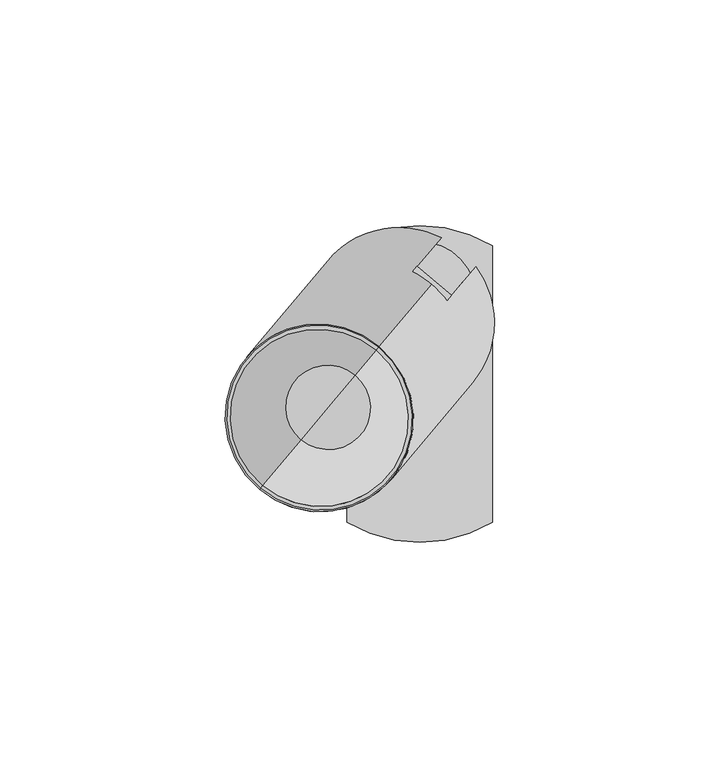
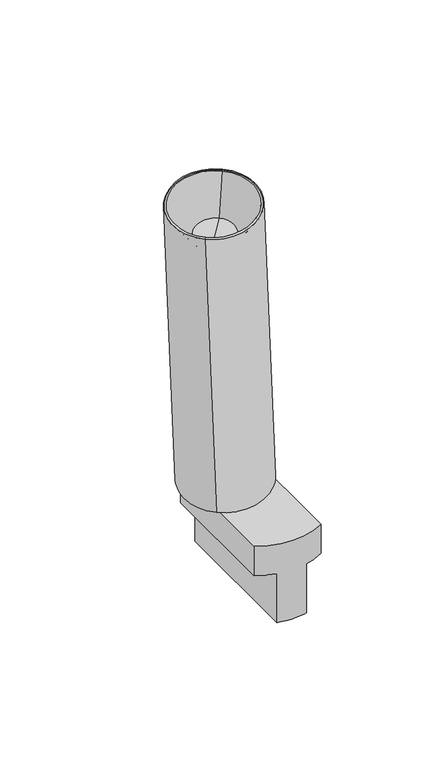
"""IFC4 building model written with IfcOpenShell, lengths in millimetres: light fixture geometry, PIPES T XS : 490lm 7,8W 930 38°."""

from ifc_helpers import new_model, si_unit, point, frame, frame_2d, origin, origin_2d, place, context, project, spatial, polyline, circle_curve, trimmed, segment, composite_curve, outline, extrude, source, transform, mapped, element, save
from ifc_brep_helpers import plane_surface, cylinder_surface, revolved_surface, advanced_brep


def light_fixture_6916883d(model_context):
    return source(origin(), model_context, "Body", "SolidModel", [
        extrude(outline(composite_curve([segment(polyline([(-39.7303383, 0.0), (-39.7303383, 8.0), (-36.7303383, 8.0), (-36.7303383, 10.0000001), (21.31827, 10.0000001), (21.31827, 2.0)]), True, "CONTINUOUS"), segment(trimmed(circle_curve(frame_2d((15.691322, 2.0)), 5.626948), [point((21.31827, 2.0))], [point((15.691322, -3.626948))], False, "CARTESIAN"), True, "CONTINUOUS"), segment(polyline([(15.691322, -3.626948), (9.8735653, -3.626948)]), True, "CONTINUOUS"), segment(trimmed(circle_curve(frame_2d((17.7182036, 2.2388679)), 9.7952104), [point((9.8735653, -3.626948))], [point((8.1822916, 0.0))], False, "CARTESIAN"), True, "CONTINUOUS"), segment(polyline([(8.1822916, 0.0), (-39.7303383, 0.0)]), True, "CONTINUOUS")], self_intersect=False)), frame((0.6162842, -7.0441603, 56.5303383), z_axis=(-0.7660444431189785, 0.6427876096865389, 0.0), x_axis=(0.0, 0.0, 1.0)), (0.0, 0.0, 1.0), 10.0),
        extrude(outline(composite_curve([segment(trimmed(circle_curve(origin_2d(), 12.5), [point((9.5755555, -8.0348451))], [point((-9.5755555, 8.0348451))], False, "CARTESIAN"), True, "CONTINUOUS"), segment(trimmed(circle_curve(origin_2d(), 12.5), [point((-9.5755555, 8.0348451))], [point((9.5755555, -8.0348451))], False, "CARTESIAN"), True, "CONTINUOUS")], self_intersect=False)), frame((0.0, 0.0, 15.0), z_axis=(0.0, 0.0, 1.0), x_axis=(1.0, 0.0, 0.0)), (0.0, 0.0, 1.0), 1.8),
        advanced_brep(
        [(-7.1153658, 15.2862846, -25.0), (7.1153658, 15.2862846, -25.0), (7.1153658, -53.3498174, -25.0), (-7.1153658, -53.3498174, -25.0), (-16.1153658, -49.7317664, 15.0), (16.1153658, -49.7317664, 15.0), (16.1153658, 11.6682336, 15.0), (-16.1153658, 11.6682336, 15.0), (-16.1153658, 11.6682336, 0.0), (-16.1153658, -49.7317664, 0.0), (16.1153658, 11.6682336, 0.0), (7.1153658, 15.2862846, 0.0), (-7.1153658, 15.2862846, 0.0), (16.1153658, -49.7317664, 0.0), (-7.1153658, -53.3498174, 0.0), (7.1153658, -53.3498174, 0.0)],
        [
            (0, 1, circle_curve(frame((0.0, -15.4162786, -25.0), z_axis=(0.0, 0.0, -1.0), x_axis=(1.0, 0.0, 0.0)), 31.5162786)),
            (1, 2),
            (2, 3, circle_curve(frame((0.0, -22.6472542, -25.0), z_axis=(0.0, 0.0, -1.0), x_axis=(1.0, 0.0, 0.0)), 31.5162786)),
            (3, 0),
            (4, 5, circle_curve(frame((0.0, -22.6472542, 15.0), z_axis=(0.0, 0.0, 1.0), x_axis=(1.0, 0.0, 0.0)), 31.5162786)),
            (5, 6),
            (6, 7, circle_curve(frame((0.0, -15.4162786, 15.0), z_axis=(0.0, 0.0, 1.0), x_axis=(1.0, 0.0, 0.0)), 31.5162786)),
            (7, 4),
            (7, 8),
            (8, 9),
            (9, 4),
            (6, 10),
            (10, 11, circle_curve(frame((0.0, -15.4162786, 0.0), z_axis=(0.0, 0.0, 1.0), x_axis=(1.0, 0.0, 0.0)), 31.5162786)),
            (11, 1),
            (0, 12),
            (12, 8, circle_curve(frame((0.0, -15.4162786, 0.0), z_axis=(0.0, 0.0, 1.0), x_axis=(1.0, 0.0, 0.0)), 31.5162786)),
            (5, 13),
            (13, 10),
            (9, 14, circle_curve(frame((0.0, -22.6472542, 0.0), z_axis=(0.0, 0.0, 1.0), x_axis=(1.0, 0.0, 0.0)), 31.5162786)),
            (14, 3),
            (2, 15),
            (15, 13, circle_curve(frame((0.0, -22.6472542, 0.0), z_axis=(0.0, 0.0, 1.0), x_axis=(1.0, 0.0, 0.0)), 31.5162786)),
            (12, 14),
            (15, 11),
        ],
        [
            plane_surface(frame((-16.1153658, 11.6883244, -25.0), z_axis=(0.0, 0.0, -1.0), x_axis=(0.0, -1.0, 0.0))),
            plane_surface(frame((-16.1153658, 11.6883244, 15.0), z_axis=(0.0, 0.0, 1.0), x_axis=(0.0, 1.0, 0.0))),
            plane_surface(frame((-16.1153658, -49.7317664, 15.0), z_axis=(-1.0, 0.0, 0.0), x_axis=(0.0, 0.0, -1.0))),
            cylinder_surface(frame((0.0, -15.4162786, -25.0), z_axis=(0.0, 0.0, 1.0), x_axis=(1.0, 0.0, 0.0)), 31.5162786),
            plane_surface(frame((16.1153658, 11.6682336, 15.0), z_axis=(1.0, 0.0, 0.0), x_axis=(0.0, 0.0, -1.0))),
            cylinder_surface(frame((0.0, -22.6472542, -25.0), z_axis=(0.0, 0.0, 1.0), x_axis=(1.0, 0.0, 0.0)), 31.5162786),
            plane_surface(frame((-7.1153658, -58.6979838, 0.0), z_axis=(0.0, 0.0, -1.0), x_axis=(-1.0, 0.0, 0.0))),
            plane_surface(frame((-7.1153658, 21.3020162, 0.0), z_axis=(-1.0, 0.0, 0.0), x_axis=(0.0, 0.0, -1.0))),
            plane_surface(frame((7.1153658, 11.6883244, 0.0), z_axis=(0.0, 0.0, -1.0), x_axis=(0.0, 1.0, 0.0))),
            plane_surface(frame((7.1153658, -58.6979838, 0.0), z_axis=(1.0, 0.0, 0.0), x_axis=(0.0, 0.0, -1.0))),
        ],
        [
            (0, [[1, 2, 3, 4]]),
            (1, [[5, 6, 7, 8]]),
            (2, [[9, 10, 11, -8]]),
            (3, [[12, 13, 14, -1, 15, 16, -9, -7]]),
            (4, [[17, 18, -12, -6]]),
            (5, [[-11, 19, 20, -3, 21, 22, -17, -5]]),
            (6, [[-19, -10, -16, 23]]),
            (7, [[-15, -4, -20, -23]]),
            (8, [[-13, -18, -22, 24]]),
            (9, [[-21, -2, -14, -24]]),
        ],
    ),
        advanced_brep(
        [(0.1070166, -7.6510817, 77.0557979), (6.0549428, -0.5626193, 78.6874097), (12.41722, 7.0196474, 22.5533678), (11.1095383, 5.4612131, 22.1946497), (10.4398249, 4.6630797, 28.1034962), (5.7995804, -0.8669484, 26.8306025), (-7.5534278, -1.2232056, 77.0557979), (-1.8608641, 5.5609277, 26.8306025), (2.7793805, 11.0909558, 28.1034962), (3.4490939, 11.8890891, 22.1946497), (4.7567755, 13.4475235, 22.5533678), (-1.6055016, 5.8652568, 78.6874097), (1.9693582, 2.3469897, 26.8306025), (2.6070166, 3.1069214, 78.7922797), (-9.0013487, -10.7273896, 181.212286), (-17.6176396, -20.9958852, 15.3650143), (-35.588282, -42.4124629, 173.9190625), (-16.3515951, -19.4870722, 15.7123106), (-17.0213085, -20.2852055, 21.6211571), (-4.9938863, -5.9514819, 24.9204725), (-26.5600879, -31.6530802, 157.610249), (-20.2298657, -24.1090152, 159.3467308), (-13.8996435, -16.5649501, 161.0832126)],
        [
            (0, 1),
            (1, 2),
            (2, 3),
            (3, 4),
            (4, 5),
            (5, 0),
            (6, 7),
            (7, 8),
            (8, 9),
            (9, 10),
            (10, 11),
            (11, 6),
            (5, 12),
            (12, 7),
            (6, 0),
            (11, 13, circle_curve(frame((-10.68645, -12.7356152, 75.1456679), z_axis=(0.11161889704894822, 0.13302222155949, -0.9848077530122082), x_axis=(0.6330222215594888, 0.7544065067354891, 0.17364817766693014)), 21.0)),
            (13, 1, circle_curve(frame((-10.68645, -12.7356152, 75.1456679), z_axis=(0.11161889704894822, 0.13302222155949, -0.9848077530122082), x_axis=(0.6330222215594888, 0.7544065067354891, 0.17364817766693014)), 21.0)),
            (14, 13),
            (10, 15, circle_curve(frame((-4.3241729, -5.1533486, 19.011626), z_axis=(-0.11161889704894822, -0.13302222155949, 0.9848077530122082), x_axis=(0.6330222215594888, 0.7544065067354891, 0.17364817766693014)), 21.0)),
            (15, 16),
            (16, 14, circle_curve(frame((-22.2948153, -26.5699263, 177.5656742), z_axis=(0.11161889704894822, 0.13302222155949, -0.9848077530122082), x_axis=(0.6330222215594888, 0.7544065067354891, 0.17364817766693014)), 21.0)),
            (15, 2, circle_curve(frame((-4.3241729, -5.1533486, 19.011626), z_axis=(-0.11161889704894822, -0.13302222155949, 0.9848077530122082), x_axis=(0.6330222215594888, 0.7544065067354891, 0.17364817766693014)), 21.0)),
            (14, 16, circle_curve(frame((-22.2948153, -26.5699263, 177.5656742), z_axis=(0.11161889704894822, 0.13302222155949, -0.9848077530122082), x_axis=(0.6330222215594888, 0.7544065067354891, 0.17364817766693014)), 21.0)),
            (9, 17, circle_curve(frame((-4.3241729, -5.1533486, 19.011626), z_axis=(-0.11161889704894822, -0.13302222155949, 0.9848077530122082), x_axis=(0.6330222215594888, 0.7544065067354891, 0.17364817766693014)), 19.0)),
            (17, 15),
            (17, 3, circle_curve(frame((-4.3241729, -5.1533486, 19.011626), z_axis=(-0.11161889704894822, -0.13302222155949, 0.9848077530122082), x_axis=(0.6330222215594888, 0.7544065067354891, 0.17364817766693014)), 19.0)),
            (8, 18, circle_curve(frame((-4.9938863, -5.9514819, 24.9204725), z_axis=(-0.11161889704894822, -0.13302222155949, 0.9848077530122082), x_axis=(0.6330222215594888, 0.7544065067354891, 0.17364817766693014)), 19.0)),
            (18, 17),
            (18, 4, circle_curve(frame((-4.9938863, -5.9514819, 24.9204725), z_axis=(-0.11161889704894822, -0.13302222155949, 0.9848077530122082), x_axis=(0.6330222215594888, 0.7544065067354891, 0.17364817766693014)), 19.0)),
            (12, 19),
            (19, 18),
            (20, 21),
            (21, 22),
            (22, 20, circle_curve(frame((-20.2298657, -24.1090152, 159.3467308), z_axis=(-0.11161889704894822, -0.13302222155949, 0.9848077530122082), x_axis=(0.6330222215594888, 0.7544065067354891, 0.17364817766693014)), 10.0)),
            (20, 22, circle_curve(frame((-20.2298657, -24.1090152, 159.3467308), z_axis=(-0.11161889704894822, -0.13302222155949, 0.9848077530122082), x_axis=(0.6330222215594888, 0.7544065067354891, 0.17364817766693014)), 10.0)),
            (16, 20),
            (22, 14),
        ],
        [
            plane_surface(frame((0.1070166, -7.6510817, 77.0557979), z_axis=(-0.7660444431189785, 0.6427876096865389, 0.0), x_axis=(-0.11161889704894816, -0.13302222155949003, 0.9848077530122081))),
            plane_surface(frame((-7.5534278, -1.2232056, 77.0557979), z_axis=(0.7660444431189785, -0.6427876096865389, 0.0), x_axis=(0.11161889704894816, 0.13302222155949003, -0.9848077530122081))),
            plane_surface(frame((-7.5534278, -1.2232056, 77.0557979), z_axis=(0.6330222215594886, 0.7544065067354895, 0.1736481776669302), x_axis=(0.7660444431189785, -0.6427876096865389, 0.0))),
            plane_surface(frame((5.1070166, 13.8649245, 80.5287614), z_axis=(0.11161889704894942, 0.13302222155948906, -0.9848077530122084), x_axis=(0.7660444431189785, -0.6427876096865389, 0.0))),
            cylinder_surface(frame((-3.3807275, -4.0289941, 10.6876557), z_axis=(0.11161889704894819, 0.13302222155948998, -0.984807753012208), x_axis=(0.6330222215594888, 0.7544065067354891, 0.17364817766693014)), 21.0),
            plane_surface(frame((-4.3241729, -5.1533486, 19.011626), z_axis=(0.11161889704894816, 0.13302222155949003, -0.9848077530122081), x_axis=(0.6330222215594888, 0.7544065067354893, 0.17364817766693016))),
            revolved_surface(polyline([(7.703249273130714, 9.18037503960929, 22.310941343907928), (7.033535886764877, 8.382241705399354, 28.219787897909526)]), (-3.3807275, -4.0289941, 10.6876557), (0.11161889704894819, 0.13302222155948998, -0.984807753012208)),
            revolved_surface(polyline([(7.703249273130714, 9.18037503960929, 22.310941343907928), (7.033535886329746, 8.382241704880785, 28.21978790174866)]), (-3.3807275, -4.0289941, 10.6876557), (0.11161889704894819, 0.13302222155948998, -0.984807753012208)),
            plane_surface(frame((-4.9938863, -5.9514819, 24.9204725), z_axis=(0.11161889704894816, 0.13302222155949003, -0.9848077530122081), x_axis=(0.6330222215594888, 0.7544065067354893, 0.17364817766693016))),
            plane_surface(frame((-20.2298657, -24.1090152, 159.3467308), z_axis=(-0.11161889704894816, -0.13302222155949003, 0.9848077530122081), x_axis=(0.6330222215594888, 0.7544065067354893, 0.17364817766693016))),
            revolved_surface(polyline([(-13.8996435, -16.5649501, 161.0832126), (-9.0013487, -10.7273896, 181.212286)]), (-3.3807275, -4.0289941, 10.6876557), (0.11161889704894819, 0.13302222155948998, -0.984807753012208)),
        ],
        [
            (0, [[1, 2, 3, 4, 5, 6]]),
            (1, [[7, 8, 9, 10, 11, 12]]),
            (2, [[-6, 13, 14, -7, 15]]),
            (3, [[-12, 16, 17, -1, -15]]),
            (4, [[18, -16, -11, 19, 20, 21]]),
            (4, [[22, -2, -17, -18, 23, -20]]),
            (5, [[-19, -10, 24, 25]]),
            (5, [[26, -3, -22, -25]]),
            (6, [[-24, -9, 27, 28]]),
            (7, [[29, -4, -26, -28]]),
            (8, [[-27, -8, -14, 30, 31]]),
            (8, [[-30, -13, -5, -29, -31]]),
            (9, [[32, 33, 34]]),
            (9, [[-32, 35, -33]]),
            (10, [[36, -34, 37, -21]]),
            (10, [[-37, -35, -36, -23]]),
        ],
    ),
        advanced_brep(
        [(6.246056, -0.3348595, 22.8913715), (9.563995, 3.6193063, 23.8015355), (9.7872328, 3.8853508, 21.83192), (6.4692938, -0.0688151, 20.921756), (-1.1911507, 6.359061, 20.921756), (2.1267884, 10.3132269, 21.83192), (1.9035506, 10.0471824, 23.8015355), (-1.4143885, 6.0930166, 22.8913715), (2.6390715, 3.145123, 20.921756), (2.4158337, 2.8790785, 22.8913715), (-4.5474107, -5.419393, 20.9812415), (-15.3047646, -18.2395082, 18.0303263), (-15.0815268, -17.9734637, 16.0607108), (-4.3241729, -5.1533486, 19.011626)],
        [
            (0, 1),
            (1, 2),
            (2, 3),
            (3, 0),
            (4, 5),
            (5, 6),
            (6, 7),
            (7, 4),
            (3, 8),
            (8, 4),
            (7, 9),
            (9, 0),
            (10, 9),
            (6, 11, circle_curve(frame((-4.5474107, -5.419393, 20.9812415), z_axis=(-0.11161889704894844, -0.13302222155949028, 0.984807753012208), x_axis=(0.6330222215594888, 0.7544065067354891, 0.17364817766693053)), 16.9936434)),
            (11, 10),
            (11, 1, circle_curve(frame((-4.5474107, -5.419393, 20.9812415), z_axis=(-0.11161889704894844, -0.13302222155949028, 0.984807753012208), x_axis=(0.6330222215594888, 0.7544065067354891, 0.17364817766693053)), 16.9936434)),
            (5, 12, circle_curve(frame((-4.3241729, -5.1533486, 19.011626), z_axis=(-0.11161889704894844, -0.13302222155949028, 0.984807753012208), x_axis=(0.6330222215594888, 0.7544065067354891, 0.17364817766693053)), 16.9936434)),
            (12, 11),
            (12, 2, circle_curve(frame((-4.3241729, -5.1533486, 19.011626), z_axis=(-0.11161889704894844, -0.13302222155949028, 0.984807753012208), x_axis=(0.6330222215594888, 0.7544065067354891, 0.17364817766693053)), 16.9936434)),
            (8, 13),
            (13, 12),
        ],
        [
            plane_surface(frame((0.1070166, -7.6510817, 77.0557979), z_axis=(-0.7660444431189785, 0.6427876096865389, 0.0), x_axis=(-0.11161889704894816, -0.13302222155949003, 0.9848077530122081))),
            plane_surface(frame((-7.5534278, -1.2232056, 77.0557979), z_axis=(0.7660444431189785, -0.6427876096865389, 0.0), x_axis=(0.11161889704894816, 0.13302222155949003, -0.9848077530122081))),
            plane_surface(frame((-7.5534278, -1.2232056, 77.0557979), z_axis=(0.6330222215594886, 0.7544065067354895, 0.1736481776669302), x_axis=(0.7660444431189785, -0.6427876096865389, 0.0))),
            plane_surface(frame((-4.5474107, -5.419393, 20.9812415), z_axis=(-0.1116188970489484, -0.1330222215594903, 0.9848077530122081), x_axis=(0.6330222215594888, 0.7544065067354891, 0.17364817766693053))),
            cylinder_surface(frame((-19.0631825, -22.7186162, 149.053145), z_axis=(0.11161889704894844, 0.13302222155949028, -0.984807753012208), x_axis=(0.6330222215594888, 0.7544065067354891, 0.17364817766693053)), 16.9936434),
            plane_surface(frame((-4.3241729, -5.1533486, 19.011626), z_axis=(0.1116188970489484, 0.1330222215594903, -0.9848077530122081), x_axis=(0.6330222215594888, 0.7544065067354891, 0.17364817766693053))),
        ],
        [
            (0, [[1, 2, 3, 4]]),
            (1, [[5, 6, 7, 8]]),
            (2, [[9, 10, -8, 11, 12, -4]]),
            (3, [[13, -11, -7, 14, 15]]),
            (3, [[16, -1, -12, -13, -15]]),
            (4, [[-14, -6, 17, 18]]),
            (4, [[19, -2, -16, -18]]),
            (5, [[-17, -5, -10, 20, 21]]),
            (5, [[-20, -9, -3, -19, -21]]),
        ],
    ),
        advanced_brep(
        [(-26.3116286, -31.356978, 158.693832), (-20.3414846, -24.2420374, 160.3315386), (-14.3713406, -17.1270968, 161.9692451), (-34.8518122, -41.5347724, 174.121088), (-9.7378185, -11.6050801, 181.0102605), (-35.588282, -42.4124629, 173.9190625), (-9.0013487, -10.7273896, 181.212286), (-26.5600879, -31.6530802, 157.610249), (-13.8996435, -16.5649501, 161.0832126), (-20.2298657, -24.1090152, 159.3467308)],
        [
            (0, 1),
            (1, 2),
            (2, 0, circle_curve(frame((-20.3414846, -24.2420374, 160.3315386), z_axis=(-0.1116188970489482, -0.13302222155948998, 0.9848077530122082), x_axis=(0.6330222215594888, 0.7544065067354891, 0.1736481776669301)), 9.431176)),
            (0, 2, circle_curve(frame((-20.3414846, -24.2420374, 160.3315386), z_axis=(-0.1116188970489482, -0.13302222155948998, 0.9848077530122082), x_axis=(0.6330222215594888, 0.7544065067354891, 0.1736481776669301)), 9.431176)),
            (3, 0),
            (2, 4),
            (4, 3, circle_curve(frame((-22.2948153, -26.5699263, 177.5656742), z_axis=(-0.1116188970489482, -0.13302222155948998, 0.9848077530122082), x_axis=(0.6330222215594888, 0.7544065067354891, 0.1736481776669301)), 19.8365814)),
            (3, 4, circle_curve(frame((-22.2948153, -26.5699263, 177.5656742), z_axis=(-0.1116188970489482, -0.13302222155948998, 0.9848077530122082), x_axis=(0.6330222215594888, 0.7544065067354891, 0.1736481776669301)), 19.8365814)),
            (5, 3),
            (4, 6),
            (6, 5, circle_curve(frame((-22.2948153, -26.5699263, 177.5656742), z_axis=(-0.1116188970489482, -0.13302222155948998, 0.9848077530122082), x_axis=(0.6330222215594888, 0.7544065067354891, 0.1736481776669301)), 21.0)),
            (5, 6, circle_curve(frame((-22.2948153, -26.5699263, 177.5656742), z_axis=(-0.1116188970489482, -0.13302222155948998, 0.9848077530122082), x_axis=(0.6330222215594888, 0.7544065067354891, 0.1736481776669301)), 21.0)),
            (7, 5),
            (6, 8),
            (8, 7, circle_curve(frame((-20.2298657, -24.1090152, 159.3467308), z_axis=(-0.1116188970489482, -0.13302222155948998, 0.9848077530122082), x_axis=(0.6330222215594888, 0.7544065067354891, 0.1736481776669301)), 10.0)),
            (7, 8, circle_curve(frame((-20.2298657, -24.1090152, 159.3467308), z_axis=(-0.1116188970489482, -0.13302222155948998, 0.9848077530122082), x_axis=(0.6330222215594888, 0.7544065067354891, 0.1736481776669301)), 10.0)),
            (9, 7),
            (8, 9),
        ],
        [
            plane_surface(frame((-20.3414846, -24.2420374, 160.3315386), z_axis=(-0.11161889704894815, -0.13302222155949, 0.9848077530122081), x_axis=(0.6330222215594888, 0.7544065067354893, 0.17364817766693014))),
            revolved_surface(polyline([(-14.3713406, -17.1270968, 161.9692451), (-9.7378185, -11.6050801, 181.0102605)]), (-1.1483495, -1.3685497, -9.0084994), (0.11161889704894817, 0.13302222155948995, -0.984807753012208)),
            plane_surface(frame((-22.2948153, -26.5699263, 177.5656742), z_axis=(-0.11161889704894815, -0.13302222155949, 0.9848077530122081), x_axis=(0.6330222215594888, 0.7544065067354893, 0.17364817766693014))),
            revolved_surface(polyline([(-9.0013487, -10.7273896, 181.212286), (-13.8996435, -16.5649501, 161.0832126)]), (-1.1483495, -1.3685497, -9.0084994), (0.11161889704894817, 0.13302222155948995, -0.984807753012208)),
            plane_surface(frame((-20.2298657, -24.1090152, 159.3467308), z_axis=(0.11161889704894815, 0.13302222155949, -0.9848077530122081), x_axis=(0.6330222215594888, 0.7544065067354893, 0.17364817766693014))),
        ],
        [
            (0, [[1, 2, 3]]),
            (0, [[-2, -1, 4]]),
            (1, [[5, -3, 6, 7]]),
            (1, [[-6, -4, -5, 8]]),
            (2, [[9, -7, 10, 11]]),
            (2, [[-10, -8, -9, 12]]),
            (3, [[13, -11, 14, 15]]),
            (3, [[-14, -12, -13, 16]]),
            (4, [[17, -15, 18]]),
            (4, [[-18, -16, -17]]),
        ],
    ),
    ])


if __name__ == "__main__":
    model = new_model("IFC4")
    model_context = context("Model", 3, world=origin())
    ifc_project = project(units=[si_unit("LENGTHUNIT", "METRE", prefix="MILLI")], contexts=[model_context])
    site = spatial("IfcSite", under=ifc_project)
    building = spatial("IfcBuilding", under=site)
    placement = place(None, origin())
    light_fixture_shape = light_fixture_6916883d(model_context)
    element("IfcLightFixture", 1, ObjectType="PIPES T XS : 490lm 7,8W 930 38°", at=placement, inside=building, context=model_context, shape_type="MappedRepresentation", body=[
        mapped(light_fixture_shape, transform((0.0, 0.0, 0.0), x_axis=(1.0, 0.0, 0.0), y_axis=(0.0, 1.0, 0.0), z_axis=(0.0, 0.0, 1.0))),
    ])
    save(model, "model.ifc")
